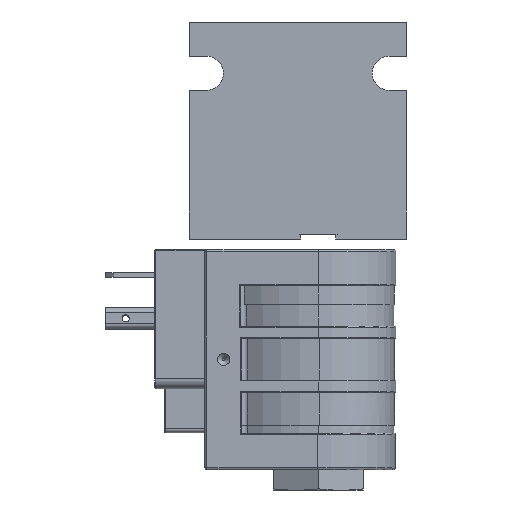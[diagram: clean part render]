
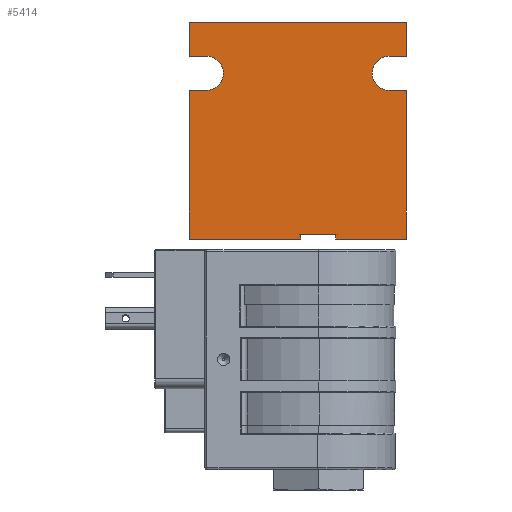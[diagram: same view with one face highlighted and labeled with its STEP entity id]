
A CAD part, left-side view. The second image highlights one B-rep face of the part: STEP entity #5414.
In plain terms, the highlighted planar face has unit normal (-1, 0, 0) as drawn and (0, -1, 0) by its records, which use the part's own axes.
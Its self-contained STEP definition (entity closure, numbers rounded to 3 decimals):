
#338=LINE('',#7949,#655);
#341=LINE('',#8039,#658);
#346=LINE('',#8050,#663);
#359=LINE('',#8082,#676);
#360=LINE('',#8083,#677);
#361=LINE('',#8085,#678);
#362=LINE('',#8089,#679);
#363=LINE('',#8091,#680);
#364=LINE('',#8093,#681);
#365=LINE('',#8095,#682);
#366=LINE('',#8097,#683);
#367=LINE('',#8099,#684);
#368=LINE('',#8101,#685);
#369=LINE('',#8102,#686);
#655=VECTOR('',#6426,1000.);
#658=VECTOR('',#6431,1000.);
#663=VECTOR('',#6438,1000.);
#676=VECTOR('',#6461,1000.);
#677=VECTOR('',#6462,1000.);
#678=VECTOR('',#6463,1000.);
#679=VECTOR('',#6466,1000.);
#680=VECTOR('',#6467,1000.);
#681=VECTOR('',#6468,1000.);
#682=VECTOR('',#6469,1000.);
#683=VECTOR('',#6470,1000.);
#684=VECTOR('',#6471,1000.);
#685=VECTOR('',#6472,1000.);
#686=VECTOR('',#6473,1000.);
#1029=ORIENTED_EDGE('',*,*,#2415,.T.);
#1030=ORIENTED_EDGE('',*,*,#2416,.T.);
#1031=ORIENTED_EDGE('',*,*,#2395,.T.);
#1032=ORIENTED_EDGE('',*,*,#2364,.F.);
#1033=ORIENTED_EDGE('',*,*,#2417,.F.);
#1034=ORIENTED_EDGE('',*,*,#2418,.F.);
#1035=ORIENTED_EDGE('',*,*,#2419,.F.);
#1036=ORIENTED_EDGE('',*,*,#2420,.F.);
#1037=ORIENTED_EDGE('',*,*,#2421,.F.);
#1038=ORIENTED_EDGE('',*,*,#2422,.T.);
#1039=ORIENTED_EDGE('',*,*,#2423,.F.);
#1040=ORIENTED_EDGE('',*,*,#2424,.F.);
#1041=ORIENTED_EDGE('',*,*,#2425,.F.);
#1042=ORIENTED_EDGE('',*,*,#2426,.T.);
#1043=ORIENTED_EDGE('',*,*,#2400,.T.);
#1044=ORIENTED_EDGE('',*,*,#2427,.T.);
#2364=EDGE_CURVE('',#3059,#3060,#338,.T.);
#2395=EDGE_CURVE('',#3090,#3060,#341,.T.);
#2400=EDGE_CURVE('',#3095,#3094,#346,.T.);
#2415=EDGE_CURVE('',#3107,#3108,#3535,.F.);
#2416=EDGE_CURVE('',#3108,#3090,#359,.T.);
#2417=EDGE_CURVE('',#3109,#3059,#360,.T.);
#2418=EDGE_CURVE('',#3110,#3109,#361,.T.);
#2419=EDGE_CURVE('',#3111,#3110,#3536,.T.);
#2420=EDGE_CURVE('',#3112,#3111,#362,.T.);
#2421=EDGE_CURVE('',#3113,#3112,#363,.T.);
#2422=EDGE_CURVE('',#3113,#3114,#364,.T.);
#2423=EDGE_CURVE('',#3115,#3114,#365,.F.);
#2424=EDGE_CURVE('',#3116,#3115,#366,.T.);
#2425=EDGE_CURVE('',#3117,#3116,#367,.T.);
#2426=EDGE_CURVE('',#3117,#3095,#368,.T.);
#2427=EDGE_CURVE('',#3094,#3107,#369,.T.);
#3059=VERTEX_POINT('',#7948);
#3060=VERTEX_POINT('',#7950);
#3090=VERTEX_POINT('',#8040);
#3094=VERTEX_POINT('',#8049);
#3095=VERTEX_POINT('',#8051);
#3107=VERTEX_POINT('',#8080);
#3108=VERTEX_POINT('',#8081);
#3109=VERTEX_POINT('',#8084);
#3110=VERTEX_POINT('',#8086);
#3111=VERTEX_POINT('',#8088);
#3112=VERTEX_POINT('',#8090);
#3113=VERTEX_POINT('',#8092);
#3114=VERTEX_POINT('',#8094);
#3115=VERTEX_POINT('',#8096);
#3116=VERTEX_POINT('',#8098);
#3117=VERTEX_POINT('',#8100);
#3535=CIRCLE('',#5821,3.5);
#3536=CIRCLE('',#5822,3.5);
#3798=EDGE_LOOP('',(#1029,#1030,#1031,#1032,#1033,#1034,#1035,#1036,#1037,
#1038,#1039,#1040,#1041,#1042,#1043,#1044));
#4218=FACE_BOUND('',#3798,.T.);
#4635=PLANE('',#5820);
#5414=ADVANCED_FACE('',(#4218),#4635,.T.);
#5820=AXIS2_PLACEMENT_3D('',#8078,#6457,#6458);
#5821=AXIS2_PLACEMENT_3D('',#8079,#6459,#6460);
#5822=AXIS2_PLACEMENT_3D('',#8087,#6464,#6465);
#6426=DIRECTION('',(-1.,0.,0.));
#6431=DIRECTION('',(0.,0.,-1.));
#6438=DIRECTION('',(0.,0.,-1.));
#6457=DIRECTION('',(0.,-1.,0.));
#6458=DIRECTION('',(1.,0.,0.));
#6459=DIRECTION('',(0.,-1.,0.));
#6460=DIRECTION('',(1.,0.,0.));
#6461=DIRECTION('',(-1.,0.,0.));
#6462=DIRECTION('',(0.,0.,-1.));
#6463=DIRECTION('',(1.,0.,0.));
#6464=DIRECTION('',(0.,-1.,0.));
#6465=DIRECTION('',(1.,0.,0.));
#6466=DIRECTION('',(-1.,0.,0.));
#6467=DIRECTION('',(0.,0.,-1.));
#6468=DIRECTION('',(-1.,0.,0.));
#6469=DIRECTION('',(0.,0.,-1.));
#6470=DIRECTION('',(1.,0.,0.));
#6471=DIRECTION('',(0.,0.,-1.));
#6472=DIRECTION('',(-1.,0.,0.));
#6473=DIRECTION('',(1.,0.,0.));
#7948=CARTESIAN_POINT('',(22.25,-12.7,0.));
#7949=CARTESIAN_POINT('',(22.25,-12.7,0.));
#7950=CARTESIAN_POINT('',(-22.25,-12.7,0.));
#8039=CARTESIAN_POINT('',(-22.25,-12.7,44.5));
#8040=CARTESIAN_POINT('',(-22.25,-12.7,7.));
#8049=CARTESIAN_POINT('',(-22.25,-12.7,14.));
#8050=CARTESIAN_POINT('',(-22.25,-12.7,44.5));
#8051=CARTESIAN_POINT('',(-22.25,-12.7,44.5));
#8078=CARTESIAN_POINT('',(22.25,-12.7,44.5));
#8079=CARTESIAN_POINT('',(-18.75,-12.7,10.5));
#8080=CARTESIAN_POINT('',(-18.75,-12.7,14.));
#8081=CARTESIAN_POINT('',(-18.75,-12.7,7.));
#8082=CARTESIAN_POINT('',(22.25,-12.7,7.));
#8083=CARTESIAN_POINT('',(22.25,-12.7,44.5));
#8084=CARTESIAN_POINT('',(22.25,-12.7,7.));
#8085=CARTESIAN_POINT('',(22.25,-12.7,7.));
#8086=CARTESIAN_POINT('',(18.75,-12.7,7.));
#8087=CARTESIAN_POINT('',(18.75,-12.7,10.5));
#8088=CARTESIAN_POINT('',(18.75,-12.7,14.));
#8089=CARTESIAN_POINT('',(22.25,-12.7,14.));
#8090=CARTESIAN_POINT('',(22.25,-12.7,14.));
#8091=CARTESIAN_POINT('',(22.25,-12.7,44.5));
#8092=CARTESIAN_POINT('',(22.25,-12.7,44.5));
#8093=CARTESIAN_POINT('',(22.25,-12.7,44.5));
#8094=CARTESIAN_POINT('',(-0.657,-12.7,44.5));
#8095=CARTESIAN_POINT('',(-0.657,-12.7,44.5));
#8096=CARTESIAN_POINT('',(-0.657,-12.7,43.5));
#8097=CARTESIAN_POINT('',(22.25,-12.7,43.5));
#8098=CARTESIAN_POINT('',(-7.843,-12.7,43.5));
#8099=CARTESIAN_POINT('',(-7.843,-12.7,44.5));
#8100=CARTESIAN_POINT('',(-7.843,-12.7,44.5));
#8101=CARTESIAN_POINT('',(22.25,-12.7,44.5));
#8102=CARTESIAN_POINT('',(22.25,-12.7,14.));
